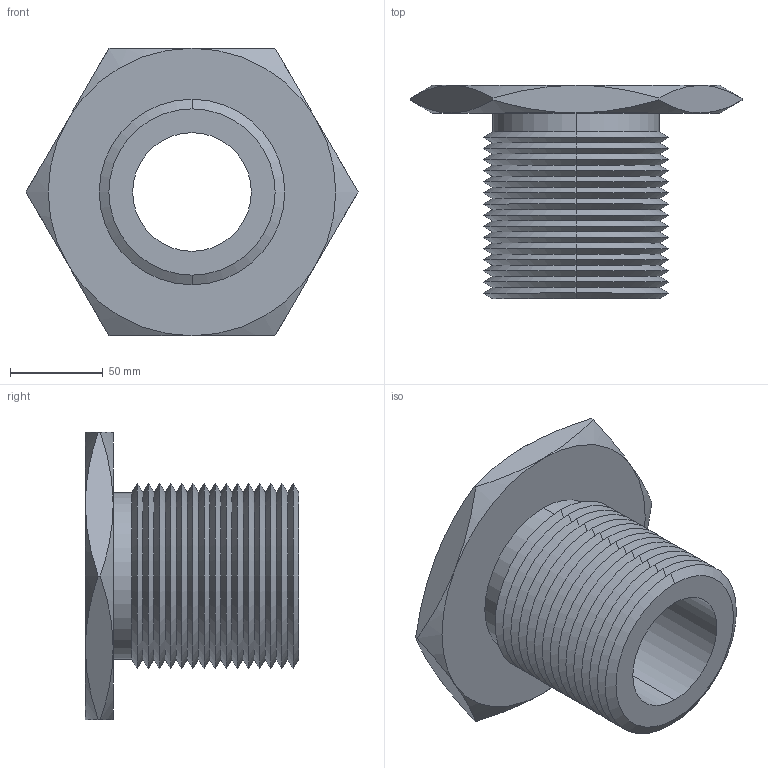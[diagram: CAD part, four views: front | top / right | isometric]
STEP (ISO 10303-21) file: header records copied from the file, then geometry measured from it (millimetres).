
FILE_DESCRIPTION (( 'STEP AP203' ), '1' );
FILE_NAME ('63302.W0100_M64x6.step', '2013-12-08T11:31:56', ( 'User' ), ( '' ), 'SwSTEP 2.0', 'SolidWorks 2009', '' );
FILE_SCHEMA (( 'CONFIG_CONTROL_DESIGN' ));
Length unit declared in the file: millimetre
Products named in the file (1): 63302.W0100_M64x6
Bounding box: 178.98 x 115 x 155 mm (x, y, z)
Volume: 629218.9 mm3; surface area: 120170 mm2
Topology: 1 solids, 1 shells, 87 faces, 178 edges, 94 vertices
Faces by surface type: cone 74, plane 9, cylinder 4
Entity records: 2479 total; most frequent: CARTESIAN_POINT 584, DIRECTION 412, ORIENTED_EDGE 356, EDGE_CURVE 178, AXIS2_PLACEMENT_3D 170, VERTEX_POINT 94, EDGE_LOOP 90, ADVANCED_FACE 87
